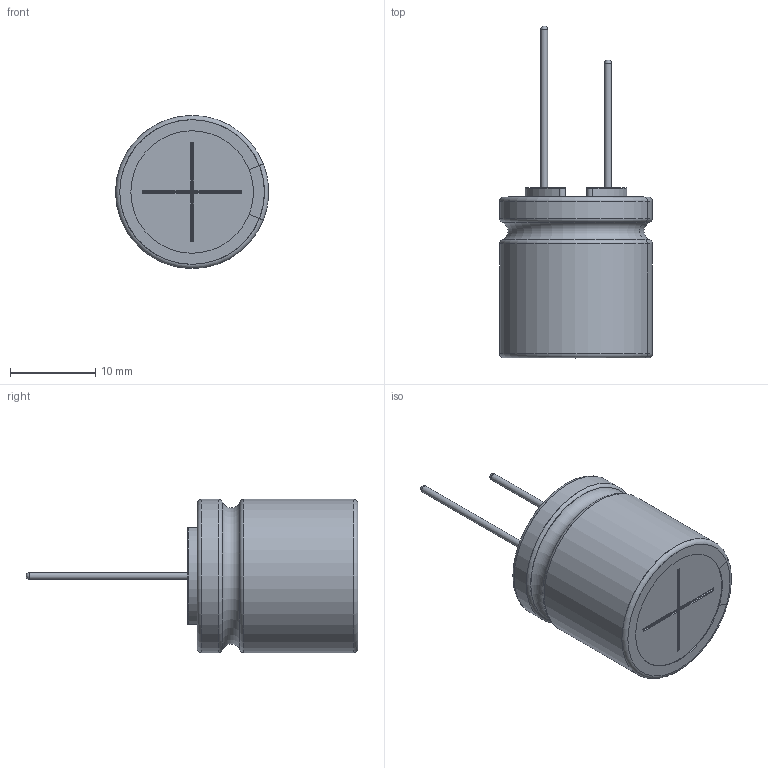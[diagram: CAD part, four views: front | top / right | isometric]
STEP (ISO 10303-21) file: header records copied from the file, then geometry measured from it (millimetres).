
FILE_DESCRIPTION(/* description */ (''),/* implementation_level */ '2;1');
FILE_NAME(/* name */ '18x20_Lead.stp',/* time_stamp */ '2017-09-05T14:53:17+09:00',/* author */ (''),/* organization */ (''),/* preprocessor_version */ 'ST-DEVELOPER v16',/* originating_system */ 'SIEMENS PLM Software NX 11.0',/* authorisation */ '');
FILE_SCHEMA (('AUTOMOTIVE_DESIGN { 1 0 10303 214 3 1 1 1 }'));
Length unit declared in the file: millimetre
Products named in the file (1): 18x20_Lead_0
Bounding box: 17.97 x 39 x 18 mm (x, y, z)
Volume: 4767.6 mm3; surface area: 4232.9 mm2
Topology: 3 solids, 3 shells, 132 faces, 328 edges, 205 vertices
Faces by surface type: cylinder 50, torus 35, plane 33, sphere 6, bspline 6, extrusion 2
Full cylindrical faces by diameter (mm): 0.8 x2, 17.8 x2
Entity records: 4908 total; most frequent: CARTESIAN_POINT 1353, DIRECTION 748, ORIENTED_EDGE 624, EDGE_CURVE 312, AXIS2_PLACEMENT_3D 311, VERTEX_POINT 200, CIRCLE 174, EDGE_LOOP 146
